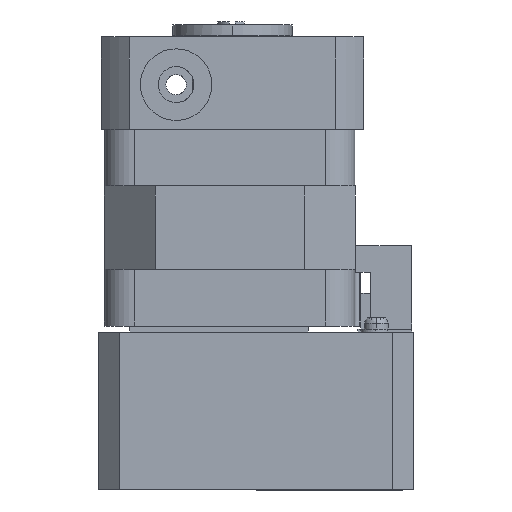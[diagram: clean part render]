
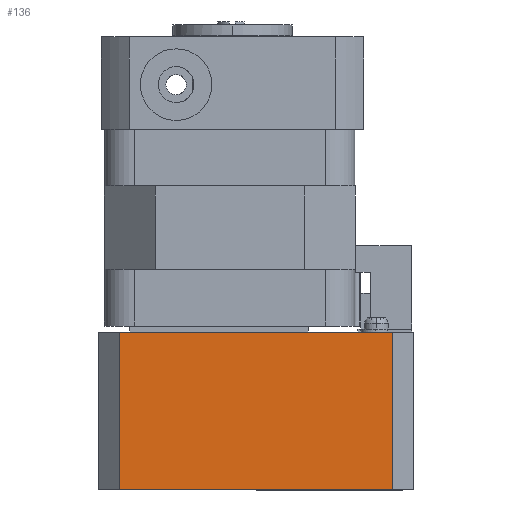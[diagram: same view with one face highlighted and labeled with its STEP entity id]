
A CAD part, left-side view. The second image highlights one B-rep face of the part: STEP entity #136.
In plain terms, the highlighted planar face has unit normal (-1, 0, 0).
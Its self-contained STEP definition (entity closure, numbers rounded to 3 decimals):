
#5 = DIRECTION ( 'NONE',  ( 0., 1., 0. ) ) ;
#8 = CARTESIAN_POINT ( 'NONE',  ( -21., -22.964, 26.5 ) ) ;
#14 = CARTESIAN_POINT ( 'NONE',  ( -21., 22.964, 26.5 ) ) ;
#15 = CARTESIAN_POINT ( 'NONE',  ( -21., 0., 0. ) ) ;
#30 = CARTESIAN_POINT ( 'NONE',  ( -21., -22.964, 26.5 ) ) ;
#31 = DIRECTION ( 'NONE',  ( 0., 0., -1. ) ) ;
#43 = DIRECTION ( 'NONE',  ( 0., -1., 0. ) ) ;
#50 = DIRECTION ( 'NONE',  ( 0., 0., 1. ) ) ;
#136 = ADVANCED_FACE ( 'NONE', ( #1622 ), #10122, .T. ) ;
#1455 = EDGE_LOOP ( 'NONE', ( #8955, #9004, #8969, #8964 ) ) ;
#1622 = FACE_OUTER_BOUND ( 'NONE', #1455, .T. ) ;
#1820 = EDGE_CURVE ( 'NONE', #11340, #11341, #3298, .T. ) ;
#1825 = EDGE_CURVE ( 'NONE', #11336, #11341, #3308, .T. ) ;
#1826 = EDGE_CURVE ( 'NONE', #11336, #11335, #3310, .T. ) ;
#1827 = EDGE_CURVE ( 'NONE', #11340, #11335, #3312, .T. ) ;
#2297 = AXIS2_PLACEMENT_3D ( 'NONE', #10094, #9999, #10089 ) ;
#3298 = LINE ( 'NONE', #30, #3299 ) ;
#3299 = VECTOR ( 'NONE', #5, 1000. ) ;
#3308 = LINE ( 'NONE', #14, #3309 ) ;
#3309 = VECTOR ( 'NONE', #50, 1000. ) ;
#3310 = LINE ( 'NONE', #15, #3311 ) ;
#3311 = VECTOR ( 'NONE', #43, 1000. ) ;
#3312 = LINE ( 'NONE', #8, #3313 ) ;
#3313 = VECTOR ( 'NONE', #31, 1000. ) ;
#7857 = CARTESIAN_POINT ( 'NONE',  ( -21., -22.964, 0. ) ) ;
#7858 = CARTESIAN_POINT ( 'NONE',  ( -21., 22.964, 0. ) ) ;
#7862 = CARTESIAN_POINT ( 'NONE',  ( -21., -22.964, 26.5 ) ) ;
#7863 = CARTESIAN_POINT ( 'NONE',  ( -21., 22.964, 26.5 ) ) ;
#8955 = ORIENTED_EDGE ( 'NONE', *, *, #1820, .T. ) ;
#8964 = ORIENTED_EDGE ( 'NONE', *, *, #1827, .F. ) ;
#8969 = ORIENTED_EDGE ( 'NONE', *, *, #1826, .T. ) ;
#9004 = ORIENTED_EDGE ( 'NONE', *, *, #1825, .F. ) ;
#9999 = DIRECTION ( 'NONE',  ( -1., 0., 0. ) ) ;
#10089 = DIRECTION ( 'NONE',  ( 0., 0., 1. ) ) ;
#10094 = CARTESIAN_POINT ( 'NONE',  ( -21., -22.964, 26.5 ) ) ;
#10122 = PLANE ( 'NONE',  #2297 ) ;
#11335 = VERTEX_POINT ( 'NONE', #7857 ) ;
#11336 = VERTEX_POINT ( 'NONE', #7858 ) ;
#11340 = VERTEX_POINT ( 'NONE', #7862 ) ;
#11341 = VERTEX_POINT ( 'NONE', #7863 ) ;
